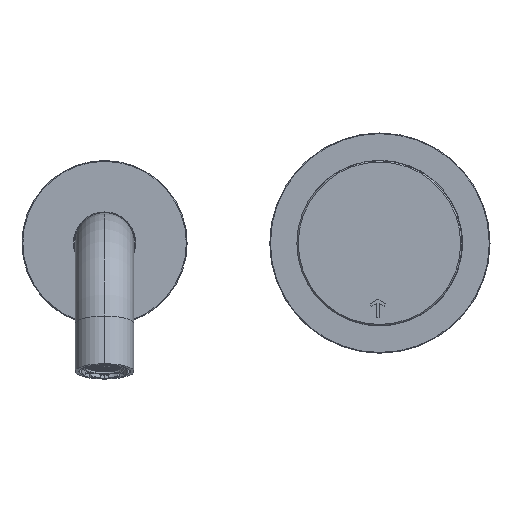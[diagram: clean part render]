
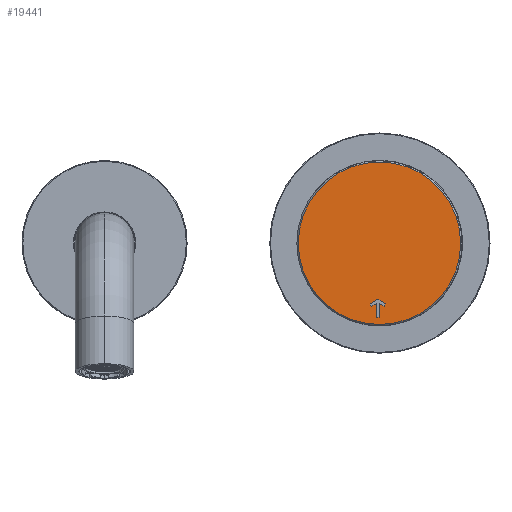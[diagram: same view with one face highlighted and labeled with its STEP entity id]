
A CAD part, top view. The second image highlights one B-rep face of the part: STEP entity #19441.
In plain terms, the highlighted planar face has unit normal (0, 0, 1).
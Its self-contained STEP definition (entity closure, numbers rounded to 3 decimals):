
#16952=CARTESIAN_POINT('',(99.85,-0.15,54.1));
#16953=DIRECTION('',(0.,0.,1.));
#16954=DIRECTION('',(1.,0.,0.));
#16955=AXIS2_PLACEMENT_3D('',#16952,#16953,#16954);
#16957=CARTESIAN_POINT('',(99.85,-0.15,54.1));
#16958=DIRECTION('',(0.,0.,1.));
#16959=DIRECTION('',(-1.,0.,0.));
#16960=AXIS2_PLACEMENT_3D('',#16957,#16958,#16959);
#16962=DIRECTION('',(0.851,-0.525,0.));
#16963=VECTOR('',#16962,3.309);
#16964=CARTESIAN_POINT('',(99.263,-20.473,54.1));
#16965=LINE('',#16964,#16963);
#16966=DIRECTION('',(0.851,0.525,0.));
#16967=VECTOR('',#16966,3.309);
#16968=CARTESIAN_POINT('',(96.448,-22.212,54.1));
#16969=LINE('',#16968,#16967);
#16970=DIRECTION('',(-0.525,0.851,0.));
#16971=VECTOR('',#16970,1.);
#16972=CARTESIAN_POINT('',(96.973,-23.063,54.1));
#16973=LINE('',#16972,#16971);
#16974=DIRECTION('',(-0.851,-0.525,0.));
#16975=VECTOR('',#16974,2.103);
#16976=CARTESIAN_POINT('',(98.763,-21.957,54.1));
#16977=LINE('',#16976,#16975);
#16978=DIRECTION('',(0.,-1.,0.));
#16979=VECTOR('',#16978,5.103);
#16980=CARTESIAN_POINT('',(99.763,-21.957,54.1));
#16981=LINE('',#16980,#16979);
#16982=DIRECTION('',(-0.851,0.525,0.));
#16983=VECTOR('',#16982,2.103);
#16984=CARTESIAN_POINT('',(101.552,-23.063,54.1));
#16985=LINE('',#16984,#16983);
#16986=DIRECTION('',(-0.525,-0.851,0.));
#16987=VECTOR('',#16986,1.);
#16988=CARTESIAN_POINT('',(102.078,-22.212,54.1));
#16989=LINE('',#16988,#16987);
#17010=DIRECTION('',(1.,0.,0.));
#17011=VECTOR('',#17010,1.);
#17012=CARTESIAN_POINT('',(98.763,-27.061,54.1));
#17013=LINE('',#17012,#17011);
#17018=DIRECTION('',(0.,-1.,0.));
#17019=VECTOR('',#17018,5.103);
#17020=CARTESIAN_POINT('',(98.763,-21.957,54.1));
#17021=LINE('',#17020,#17019);
#18328=CARTESIAN_POINT('',(98.763,-27.061,54.1));
#18329=CARTESIAN_POINT('',(99.763,-27.061,54.1));
#18330=VERTEX_POINT('',#18328);
#18331=VERTEX_POINT('',#18329);
#18348=CARTESIAN_POINT('',(96.973,-23.063,54.1));
#18349=CARTESIAN_POINT('',(96.448,-22.212,54.1));
#18350=VERTEX_POINT('',#18348);
#18351=VERTEX_POINT('',#18349);
#18356=CARTESIAN_POINT('',(99.263,-20.473,54.1));
#18357=VERTEX_POINT('',#18356);
#18359=CARTESIAN_POINT('',(98.763,-21.957,54.1));
#18360=VERTEX_POINT('',#18359);
#18367=CARTESIAN_POINT('',(102.078,-22.212,54.1));
#18369=VERTEX_POINT('',#18367);
#18375=CARTESIAN_POINT('',(129.35,-0.15,54.1));
#18376=VERTEX_POINT('',#18375);
#18377=CARTESIAN_POINT('',(101.552,-23.063,54.1));
#18378=CARTESIAN_POINT('',(99.763,-21.957,54.1));
#18379=VERTEX_POINT('',#18377);
#18380=VERTEX_POINT('',#18378);
#18392=CARTESIAN_POINT('',(70.35,-0.15,54.1));
#18393=VERTEX_POINT('',#18392);
#19412=CARTESIAN_POINT('',(99.85,-0.15,54.1));
#19413=DIRECTION('',(0.,0.,1.));
#19414=DIRECTION('',(-1.,0.,0.));
#19415=AXIS2_PLACEMENT_3D('',#19412,#19413,#19414);
#19416=PLANE('',#19415);
#19417=ORIENTED_EDGE('',*,*,#19380,.F.);
#19418=ORIENTED_EDGE('',*,*,#19397,.F.);
#19419=EDGE_LOOP('',(#19417,#19418));
#19420=FACE_OUTER_BOUND('',#19419,.F.);
#19422=ORIENTED_EDGE('',*,*,#19421,.F.);
#19424=ORIENTED_EDGE('',*,*,#19423,.F.);
#19426=ORIENTED_EDGE('',*,*,#19425,.F.);
#19428=ORIENTED_EDGE('',*,*,#19427,.F.);
#19430=ORIENTED_EDGE('',*,*,#19429,.T.);
#19432=ORIENTED_EDGE('',*,*,#19431,.T.);
#19434=ORIENTED_EDGE('',*,*,#19433,.F.);
#19436=ORIENTED_EDGE('',*,*,#19435,.F.);
#19438=ORIENTED_EDGE('',*,*,#19437,.F.);
#19439=EDGE_LOOP('',(#19422,#19424,#19426,#19428,#19430,#19432,#19434,#19436,
#19438));
#19440=FACE_BOUND('',#19439,.F.);
#16956=CIRCLE('',#16955,29.5);
#16961=CIRCLE('',#16960,29.5);
#19380=EDGE_CURVE('',#18376,#18393,#16956,.T.);
#19397=EDGE_CURVE('',#18393,#18376,#16961,.T.);
#19421=EDGE_CURVE('',#18357,#18369,#16965,.T.);
#19423=EDGE_CURVE('',#18351,#18357,#16969,.T.);
#19425=EDGE_CURVE('',#18350,#18351,#16973,.T.);
#19427=EDGE_CURVE('',#18360,#18350,#16977,.T.);
#19429=EDGE_CURVE('',#18360,#18330,#17021,.T.);
#19431=EDGE_CURVE('',#18330,#18331,#17013,.T.);
#19433=EDGE_CURVE('',#18380,#18331,#16981,.T.);
#19435=EDGE_CURVE('',#18379,#18380,#16985,.T.);
#19437=EDGE_CURVE('',#18369,#18379,#16989,.T.);
#19441=ADVANCED_FACE('',(#19420,#19440),#19416,.T.);
